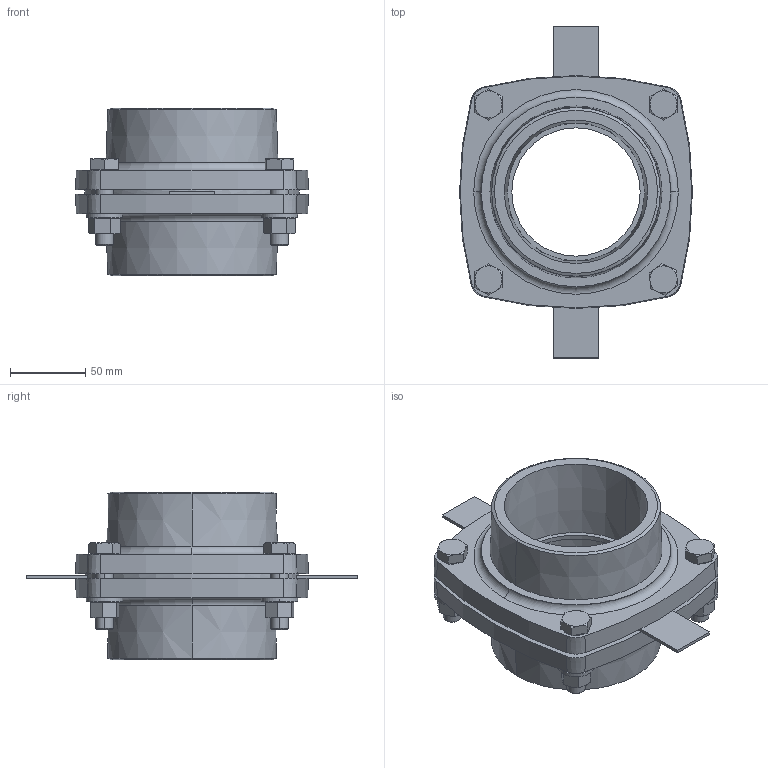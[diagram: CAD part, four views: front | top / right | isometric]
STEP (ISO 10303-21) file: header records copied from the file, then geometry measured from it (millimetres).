
FILE_DESCRIPTION (( 'STEP AP214' ), '1' );
FILE_NAME ('KP_F16-110MM.step', '2012-09-24T15:01:26', ( '' ), ( '' ), 'SwSTEP 2.0', 'SolidWorks 2012', '' );
FILE_SCHEMA (( 'AUTOMOTIVE_DESIGN' ));
Length unit declared in the file: millimetre
Products named in the file (1): KP_F16-110MM
Bounding box: 154.3 x 220 x 111 mm (x, y, z)
Volume: 738462.7 mm3; surface area: 181622.6 mm2
Topology: 15 solids, 15 shells, 366 faces, 792 edges, 464 vertices
Faces by surface type: plane 142, cone 136, cylinder 76, torus 12
Entity records: 14478 total; most frequent: CARTESIAN_POINT 2183, DIRECTION 1798, ORIENTED_EDGE 1584, EDGE_CURVE 792, AXIS2_PLACEMENT_3D 735, VERTEX_POINT 464, EDGE_LOOP 412, UNCERTAINTY_MEASURE_WITH_UNIT 383
